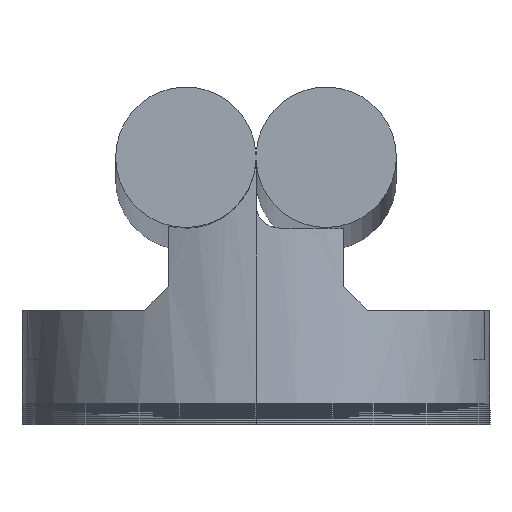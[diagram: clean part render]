
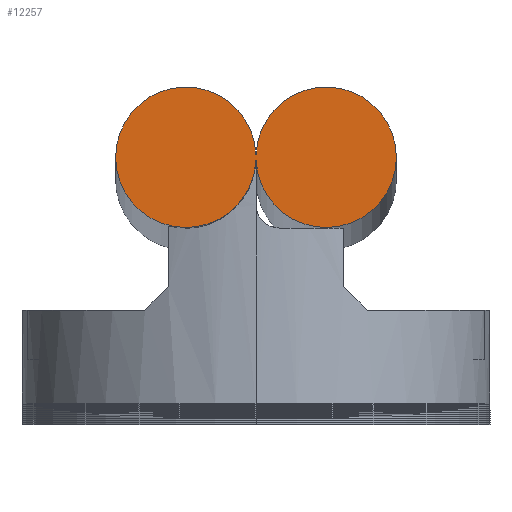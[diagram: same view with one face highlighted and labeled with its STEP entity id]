
A CAD part, top view. The second image highlights one B-rep face of the part: STEP entity #12257.
In plain terms, the highlighted planar face has unit normal (0, 0, 1).
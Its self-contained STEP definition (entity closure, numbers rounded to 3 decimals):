
#10303 = VERTEX_POINT ( 'NONE', #25139 ) ;
#10305 = EDGE_CURVE ( 'NONE', #10306, #10303, #25138, .T. ) ;
#10306 = VERTEX_POINT ( 'NONE', #25128 ) ;
#12018 = VERTEX_POINT ( 'NONE', #30433 ) ;
#12020 = EDGE_CURVE ( 'NONE', #12021, #12018, #30392, .T. ) ;
#12021 = VERTEX_POINT ( 'NONE', #30385 ) ;
#12079 = EDGE_CURVE ( 'NONE', #12018, #10306, #30618, .T. ) ;
#12185 = ORIENTED_EDGE ( 'NONE', *, *, #12079, .T. ) ;
#12191 = EDGE_CURVE ( 'NONE', #12214, #12021, #30982, .T. ) ;
#12203 = EDGE_LOOP ( 'NONE', ( #12258, #12259, #12260, #12261, #12185 ) ) ;
#12214 = VERTEX_POINT ( 'NONE', #31104 ) ;
#12216 = EDGE_CURVE ( 'NONE', #10303, #12214, #31097, .T. ) ;
#12257 = ADVANCED_FACE ( 'NONE', ( #31298 ), #31388, .T. ) ;
#12258 = ORIENTED_EDGE ( 'NONE', *, *, #10305, .T. ) ;
#12259 = ORIENTED_EDGE ( 'NONE', *, *, #12216, .T. ) ;
#12260 = ORIENTED_EDGE ( 'NONE', *, *, #12191, .T. ) ;
#12261 = ORIENTED_EDGE ( 'NONE', *, *, #12020, .T. ) ;
#25128 = CARTESIAN_POINT ( 'NONE',  ( 0.005, 20.75, 0. ) ) ;
#25129 = DIRECTION ( 'NONE',  ( 1., 0., 0. ) ) ;
#25130 = DIRECTION ( 'NONE',  ( 0., 0., 1. ) ) ;
#25131 = CARTESIAN_POINT ( 'NONE',  ( 6., 21., 0. ) ) ;
#25132 = AXIS2_PLACEMENT_3D ( 'NONE', #25131, #25130, #25129 ) ;
#25138 = CIRCLE ( 'NONE', #25132, 6. ) ;
#25139 = CARTESIAN_POINT ( 'NONE',  ( 12., 21., 0. ) ) ;
#30385 = CARTESIAN_POINT ( 'NONE',  ( -0.005, 21.25, 0. ) ) ;
#30387 = DIRECTION ( 'NONE',  ( -1., 0., 0. ) ) ;
#30389 = DIRECTION ( 'NONE',  ( 0., 0., 1. ) ) ;
#30390 = CARTESIAN_POINT ( 'NONE',  ( -6., 21., 0. ) ) ;
#30391 = AXIS2_PLACEMENT_3D ( 'NONE', #30390, #30389, #30387 ) ;
#30392 = CIRCLE ( 'NONE', #30391, 6. ) ;
#30433 = CARTESIAN_POINT ( 'NONE',  ( -0.005, 20.75, 0. ) ) ;
#30613 = DIRECTION ( 'NONE',  ( 1., 0., 0. ) ) ;
#30614 = VECTOR ( 'NONE', #30613, 1000. ) ;
#30616 = CARTESIAN_POINT ( 'NONE',  ( -0.005, 20.75, 0. ) ) ;
#30618 = LINE ( 'NONE', #30616, #30614 ) ;
#30975 = DIRECTION ( 'NONE',  ( -1., 0., 0. ) ) ;
#30977 = VECTOR ( 'NONE', #30975, 1000. ) ;
#30980 = CARTESIAN_POINT ( 'NONE',  ( -0.005, 21.25, 0. ) ) ;
#30982 = LINE ( 'NONE', #30980, #30977 ) ;
#31092 = DIRECTION ( 'NONE',  ( 1., 0., 0. ) ) ;
#31093 = DIRECTION ( 'NONE',  ( 0., 0., 1. ) ) ;
#31094 = CARTESIAN_POINT ( 'NONE',  ( 6., 21., 0. ) ) ;
#31096 = AXIS2_PLACEMENT_3D ( 'NONE', #31094, #31093, #31092 ) ;
#31097 = CIRCLE ( 'NONE', #31096, 6. ) ;
#31104 = CARTESIAN_POINT ( 'NONE',  ( 0.005, 21.25, 0. ) ) ;
#31298 = FACE_OUTER_BOUND ( 'NONE', #12203, .T. ) ;
#31382 = DIRECTION ( 'NONE',  ( 1., 0., 0. ) ) ;
#31384 = DIRECTION ( 'NONE',  ( 0., 0., 1. ) ) ;
#31386 = CARTESIAN_POINT ( 'NONE',  ( 6., 21., 0. ) ) ;
#31387 = AXIS2_PLACEMENT_3D ( 'NONE', #31386, #31384, #31382 ) ;
#31388 = PLANE ( 'NONE',  #31387 ) ;
